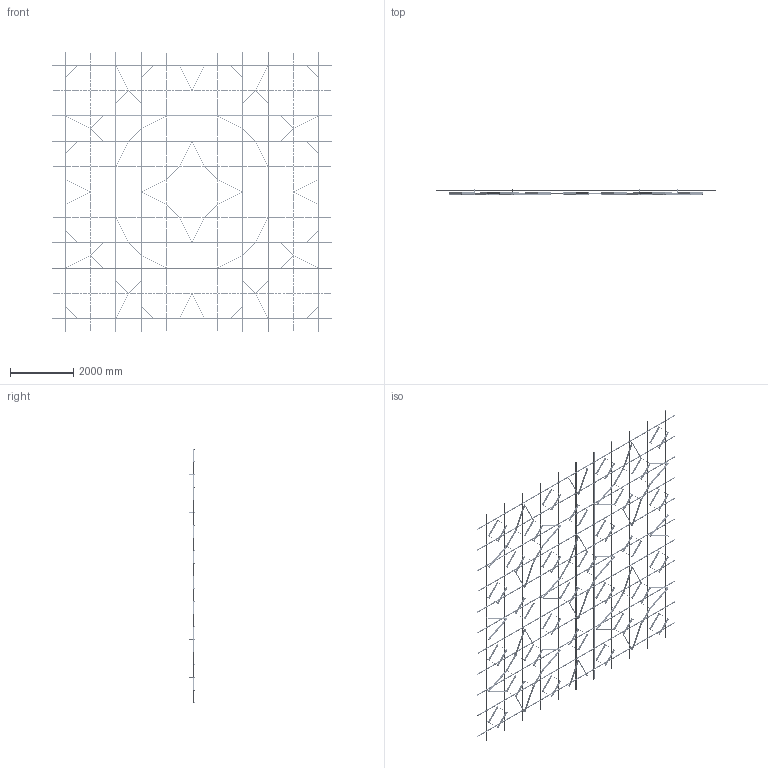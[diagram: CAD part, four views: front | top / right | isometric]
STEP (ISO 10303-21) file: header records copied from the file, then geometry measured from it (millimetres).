
FILE_DESCRIPTION (( 'STEP AP203' ), '1' );
FILE_NAME ('30 ìèíè ñ ïñ.step', '2025-11-25T13:15:38', ( '' ), ( '' ), 'SwSTEP 2.0', 'SolidWorks 2020', '' );
FILE_SCHEMA (( 'CONFIG_CONTROL_DESIGN' ));
Length unit declared in the file: millimetre
Products named in the file (5): 30 ìèíè ñ ïñ; 謶鎷ar30; SS.SEMA.2400 - Ñèìà-ïðîôèëü; Ñèñòåìà â çîíå 8000õ8000; SS.SEMA.2400 - Ñèìà-ïðîôèëü — îáðåçàí 1600
Assembly tree (90 placements, depth 3):
  30 ìèíè ñ ïñ
    Ñèñòåìà â çîíå 8000õ8000
      SS.SEMA.2400 - Ñèìà-ïðîôèëü  x66
      SS.SEMA.2400 - Ñèìà-ïðîôèëü — îáðåçàí 1600  x22
    謶鎷ar30
Bounding box: 8800 x 158 x 8800 mm (x, y, z)
Volume: 69810055.1 mm3; surface area: 43199620.9 mm2
Topology: 964 solids, 964 shells, 20380 faces, 53948 edges, 35496 vertices
Faces by surface type: cylinder 13234, plane 7146
Entity records: 103191 total; most frequent: CARTESIAN_POINT 23234, DIRECTION 15618, ORIENTED_EDGE 14744, AXIS2_PLACEMENT_3D 7560, EDGE_CURVE 7372, VERTEX_POINT 4904, EDGE_LOOP 4386, FACE_OUTER_BOUND 4224
